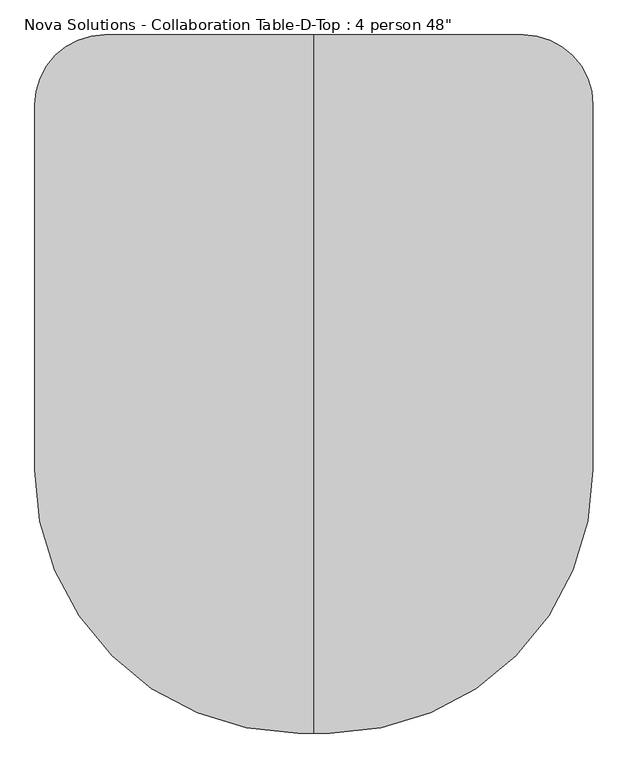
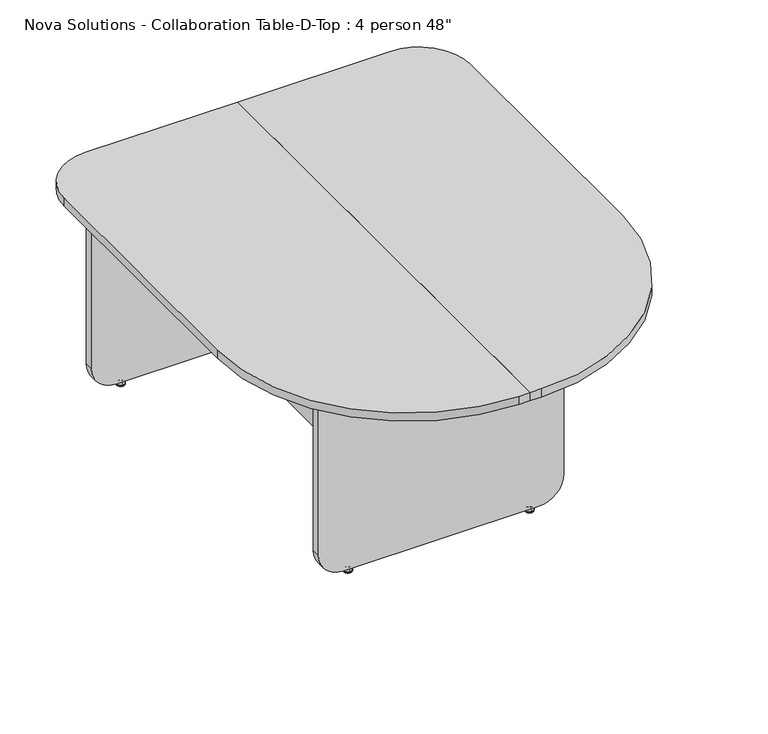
"""IFC4 building model written with IfcOpenShell, lengths in millimetres: furniture geometry."""

from ifc_helpers import new_model, si_unit, point, frame, frame_2d, origin, place, context, project, spatial, polyline, circle_curve, ellipse_curve, trimmed, segment, composite_curve, outline, extrude, source, transform, mapped, element, save
from ifc_brep_helpers import plane_surface, cylinder_surface, revolved_surface, advanced_brep


def furniture_1c62df15(model_context):
    return source(origin(), model_context, "Body", "SolidModel", [
        extrude(outline(polyline([(-136.57, 733.4), (-136.57, -271.3), (-152.77, -271.3), (-152.77, 733.4), (-136.57, 733.4)])), frame((0.0, 0.0, 181.85), z_axis=(0.0, 0.0, 1.0), x_axis=(1.0, 0.0, 0.0)), (0.0, 0.0, 1.0), 553.0),
        extrude(outline(polyline([(136.57, 733.4), (152.77, 733.4), (152.77, -271.3), (136.57, -271.3), (136.57, 733.4)])), frame((0.0, 0.0, 181.85), z_axis=(0.0, 0.0, 1.0), x_axis=(1.0, 0.0, 0.0)), (0.0, 0.0, 1.0), 553.0),
        advanced_brep(
        [(361.0578125, 752.9276506, 11.1125), (361.0578125, 739.5723494, 11.1125), (361.0578125, 746.25, 11.1125), (361.0578125, 752.9276506, 9.525), (361.0578125, 739.5723494, 9.525), (361.0578125, 758.1355135, 4.7748687), (361.0578125, 734.3644865, 4.7748687), (361.0578125, 758.9966506, 3.989419), (361.0578125, 733.5033494, 3.989419), (361.0578125, 758.9966506, 3.175), (361.0578125, 733.5033494, 3.175), (361.0578125, 758.1459119, 0.0), (361.0578125, 734.3540881, 0.0), (361.0578125, 746.25, 0.0)],
        [
            (0, 1, circle_curve(frame((361.0578125, 746.25, 11.1125), z_axis=(0.0, 0.0, 1.0), x_axis=(0.0, -1.0, 0.0)), 6.6776506)),
            (1, 2),
            (2, 0),
            (1, 0, circle_curve(frame((361.0578125, 746.25, 11.1125), z_axis=(0.0, 0.0, 1.0), x_axis=(0.0, -1.0, 0.0)), 6.6776506)),
            (3, 4, circle_curve(frame((361.0578125, 746.25, 9.525), z_axis=(0.0, 0.0, 1.0), x_axis=(0.0, -1.0, 0.0)), 6.6776506)),
            (4, 1),
            (0, 3),
            (4, 3, circle_curve(frame((361.0578125, 746.25, 9.525), z_axis=(0.0, 0.0, 1.0), x_axis=(0.0, -1.0, 0.0)), 6.6776506)),
            (5, 6, circle_curve(frame((361.0578125, 746.25, 4.7748687), z_axis=(0.0, 0.0, 1.0), x_axis=(0.0, -1.0, 0.0)), 11.8855135)),
            (6, 4, circle_curve(frame((361.0578125, 733.3179373, 11.1521822), z_axis=(1.0, 0.0, 0.0), x_axis=(0.0, 1.0, 0.0)), 6.462615)),
            (3, 5, circle_curve(frame((361.0578125, 759.1820627, 11.1521822), z_axis=(1.0, 0.0, 0.0), x_axis=(0.0, -1.0, 0.0)), 6.462615)),
            (6, 5, circle_curve(frame((361.0578125, 746.25, 4.7748687), z_axis=(0.0, 0.0, 1.0), x_axis=(0.0, -1.0, 0.0)), 11.8855135)),
            (7, 8, circle_curve(frame((361.0578125, 746.25, 3.989419), z_axis=(0.0, 0.0, 1.0), x_axis=(0.0, -1.0, 0.0)), 12.7466506)),
            (8, 6, circle_curve(frame((361.0578125, 734.5375368, 3.7203591), z_axis=(-1.0, 0.0, 0.0), x_axis=(0.0, 1.0, 0.0)), 1.0686145)),
            (5, 7, circle_curve(frame((361.0578125, 757.9624632, 3.7203591), z_axis=(-1.0, 0.0, 0.0), x_axis=(0.0, -1.0, 0.0)), 1.0686145)),
            (8, 7, circle_curve(frame((361.0578125, 746.25, 3.989419), z_axis=(0.0, 0.0, 1.0), x_axis=(0.0, -1.0, 0.0)), 12.7466506)),
            (9, 10, circle_curve(frame((361.0578125, 746.25, 3.175), z_axis=(0.0, 0.0, 1.0), x_axis=(0.0, -1.0, 0.0)), 12.7466506)),
            (10, 8),
            (7, 9),
            (10, 9, circle_curve(frame((361.0578125, 746.25, 3.175), z_axis=(0.0, 0.0, 1.0), x_axis=(0.0, -1.0, 0.0)), 12.7466506)),
            (11, 12, circle_curve(frame((361.0578125, 746.25, 0.0), z_axis=(0.0, 0.0, 1.0), x_axis=(0.0, -1.0, 0.0)), 11.8959119)),
            (12, 10),
            (9, 11),
            (12, 11, circle_curve(frame((361.0578125, 746.25, 0.0), z_axis=(0.0, 0.0, 1.0), x_axis=(0.0, -1.0, 0.0)), 11.8959119)),
            (13, 12),
            (11, 13),
        ],
        [
            plane_surface(frame((361.0578125, 746.25, 11.1125), z_axis=(0.0, 0.0, 1.0), x_axis=(0.0, -1.0, 0.0))),
            cylinder_surface(frame((361.0578125, 746.25, 43.2095994), z_axis=(0.0, 0.0, -1.0), x_axis=(0.0, -1.0, 0.0)), 6.6776506),
            revolved_surface(trimmed(ellipse_curve(frame((361.0578125, 733.3179373, 11.1521822), z_axis=(-1.0, 0.0, 0.0), x_axis=(0.0, 1.0, 0.0)), 6.462615, 6.462615), [point((361.0578125, 739.5723494, 9.525))], [point((361.0578125, 734.3644865, 4.7748687))], True, "CARTESIAN"), (361.0578125, 746.25, 43.2095994), (0.0, 0.0, -1.0)),
            revolved_surface(trimmed(ellipse_curve(frame((361.0578125, 734.5375368, 3.7203591), z_axis=(1.0, 0.0, 0.0), x_axis=(0.0, 1.0, 0.0)), 1.0686145, 1.0686145), [point((361.0578125, 734.3644865, 4.7748687))], [point((361.0578125, 733.5033494, 3.989419))], True, "CARTESIAN"), (361.0578125, 746.25, 43.2095994), (0.0, 0.0, -1.0)),
            cylinder_surface(frame((361.0578125, 746.25, 43.2095994), z_axis=(0.0, 0.0, -1.0), x_axis=(0.0, -1.0, 0.0)), 12.7466506),
            revolved_surface(polyline([(361.0578125, 733.5033494, 3.175), (361.0578125, 734.3540881, 0.0)]), (361.0578125, 746.25, 43.2095994), (0.0, 0.0, -1.0)),
            plane_surface(frame((361.0578125, 746.25, 0.0), z_axis=(0.0, 0.0, -1.0), x_axis=(0.0, -1.0, 0.0))),
        ],
        [
            (0, [[1, 2, 3]]),
            (0, [[4, -3, -2]]),
            (1, [[5, 6, -1, 7]]),
            (1, [[8, -7, -4, -6]]),
            (2, [[9, 10, -5, 11]]),
            (2, [[12, -11, -8, -10]]),
            (3, [[13, 14, -9, 15]]),
            (3, [[16, -15, -12, -14]]),
            (4, [[17, 18, -13, 19]]),
            (4, [[20, -19, -16, -18]]),
            (5, [[21, 22, -17, 23]]),
            (5, [[24, -23, -20, -22]]),
            (6, [[25, -21, 26]]),
            (6, [[-26, -24, -25]]),
        ],
    ),
        advanced_brep(
        [(-361.0578125, 752.9276506, 11.1125), (-361.0578125, 739.5723494, 11.1125), (-361.0578125, 746.25, 11.1125), (-361.0578125, 752.9276506, 9.525), (-361.0578125, 739.5723494, 9.525), (-361.0578125, 758.1355135, 4.7748687), (-361.0578125, 734.3644865, 4.7748687), (-361.0578125, 758.9966506, 3.989419), (-361.0578125, 733.5033494, 3.989419), (-361.0578125, 758.9966506, 3.175), (-361.0578125, 733.5033494, 3.175), (-361.0578125, 758.1459119, 0.0), (-361.0578125, 734.3540881, 0.0), (-361.0578125, 746.25, 0.0)],
        [
            (0, 1, circle_curve(frame((-361.0578125, 746.25, 11.1125), z_axis=(0.0, 0.0, 1.0), x_axis=(0.0, -1.0, 0.0)), 6.6776506)),
            (1, 2),
            (2, 0),
            (1, 0, circle_curve(frame((-361.0578125, 746.25, 11.1125), z_axis=(0.0, 0.0, 1.0), x_axis=(0.0, -1.0, 0.0)), 6.6776506)),
            (3, 4, circle_curve(frame((-361.0578125, 746.25, 9.525), z_axis=(0.0, 0.0, 1.0), x_axis=(0.0, -1.0, 0.0)), 6.6776506)),
            (4, 1),
            (0, 3),
            (4, 3, circle_curve(frame((-361.0578125, 746.25, 9.525), z_axis=(0.0, 0.0, 1.0), x_axis=(0.0, -1.0, 0.0)), 6.6776506)),
            (5, 6, circle_curve(frame((-361.0578125, 746.25, 4.7748687), z_axis=(0.0, 0.0, 1.0), x_axis=(0.0, -1.0, 0.0)), 11.8855135)),
            (6, 4, circle_curve(frame((-361.0578125, 733.3179373, 11.1521822), z_axis=(1.0, 0.0, 0.0), x_axis=(0.0, 1.0, 0.0)), 6.462615)),
            (3, 5, circle_curve(frame((-361.0578125, 759.1820627, 11.1521822), z_axis=(1.0, 0.0, 0.0), x_axis=(0.0, -1.0, 0.0)), 6.462615)),
            (6, 5, circle_curve(frame((-361.0578125, 746.25, 4.7748687), z_axis=(0.0, 0.0, 1.0), x_axis=(0.0, -1.0, 0.0)), 11.8855135)),
            (7, 8, circle_curve(frame((-361.0578125, 746.25, 3.989419), z_axis=(0.0, 0.0, 1.0), x_axis=(0.0, -1.0, 0.0)), 12.7466506)),
            (8, 6, circle_curve(frame((-361.0578125, 734.5375368, 3.7203591), z_axis=(-1.0, 0.0, 0.0), x_axis=(0.0, 1.0, 0.0)), 1.0686145)),
            (5, 7, circle_curve(frame((-361.0578125, 757.9624632, 3.7203591), z_axis=(-1.0, 0.0, 0.0), x_axis=(0.0, -1.0, 0.0)), 1.0686145)),
            (8, 7, circle_curve(frame((-361.0578125, 746.25, 3.989419), z_axis=(0.0, 0.0, 1.0), x_axis=(0.0, -1.0, 0.0)), 12.7466506)),
            (9, 10, circle_curve(frame((-361.0578125, 746.25, 3.175), z_axis=(0.0, 0.0, 1.0), x_axis=(0.0, -1.0, 0.0)), 12.7466506)),
            (10, 8),
            (7, 9),
            (10, 9, circle_curve(frame((-361.0578125, 746.25, 3.175), z_axis=(0.0, 0.0, 1.0), x_axis=(0.0, -1.0, 0.0)), 12.7466506)),
            (11, 12, circle_curve(frame((-361.0578125, 746.25, 0.0), z_axis=(0.0, 0.0, 1.0), x_axis=(0.0, -1.0, 0.0)), 11.8959119)),
            (12, 10),
            (9, 11),
            (12, 11, circle_curve(frame((-361.0578125, 746.25, 0.0), z_axis=(0.0, 0.0, 1.0), x_axis=(0.0, -1.0, 0.0)), 11.8959119)),
            (13, 12),
            (11, 13),
        ],
        [
            plane_surface(frame((-361.0578125, 746.25, 11.1125), z_axis=(0.0, 0.0, 1.0), x_axis=(0.0, -1.0, 0.0))),
            cylinder_surface(frame((-361.0578125, 746.25, 43.2095994), z_axis=(0.0, 0.0, -1.0), x_axis=(0.0, -1.0, 0.0)), 6.6776506),
            revolved_surface(trimmed(ellipse_curve(frame((-361.0578125, 733.3179373, 11.1521822), z_axis=(-1.0, 0.0, 0.0), x_axis=(0.0, 1.0, 0.0)), 6.462615, 6.462615), [point((-361.0578125, 739.5723494, 9.525))], [point((-361.0578125, 734.3644865, 4.7748687))], True, "CARTESIAN"), (-361.0578125, 746.25, 43.2095994), (0.0, 0.0, -1.0)),
            revolved_surface(trimmed(ellipse_curve(frame((-361.0578125, 734.5375368, 3.7203591), z_axis=(1.0, 0.0, 0.0), x_axis=(0.0, 1.0, 0.0)), 1.0686145, 1.0686145), [point((-361.0578125, 734.3644865, 4.7748687))], [point((-361.0578125, 733.5033494, 3.989419))], True, "CARTESIAN"), (-361.0578125, 746.25, 43.2095994), (0.0, 0.0, -1.0)),
            cylinder_surface(frame((-361.0578125, 746.25, 43.2095994), z_axis=(0.0, 0.0, -1.0), x_axis=(0.0, -1.0, 0.0)), 12.7466506),
            revolved_surface(polyline([(-361.0578125, 733.5033494, 3.175), (-361.0578125, 734.3540881, 0.0)]), (-361.0578125, 746.25, 43.2095994), (0.0, 0.0, -1.0)),
            plane_surface(frame((-361.0578125, 746.25, 0.0), z_axis=(0.0, 0.0, -1.0), x_axis=(0.0, -1.0, 0.0))),
        ],
        [
            (0, [[1, 2, 3]]),
            (0, [[4, -3, -2]]),
            (1, [[5, 6, -1, 7]]),
            (1, [[8, -7, -4, -6]]),
            (2, [[9, 10, -5, 11]]),
            (2, [[12, -11, -8, -10]]),
            (3, [[13, 14, -9, 15]]),
            (3, [[16, -15, -12, -14]]),
            (4, [[17, 18, -13, 19]]),
            (4, [[20, -19, -16, -18]]),
            (5, [[21, 22, -17, 23]]),
            (5, [[24, -23, -20, -22]]),
            (6, [[25, -21, 26]]),
            (6, [[-26, -24, -25]]),
        ],
    ),
        extrude(outline(composite_curve([segment(polyline([(734.85, 457.1), (734.85, -457.1), (90.15, -457.1)]), True, "CONTINUOUS"), segment(trimmed(circle_curve(frame_2d((90.15, -381.1)), 76.0), [point((90.15, -457.1))], [point((14.15, -381.1))], False, "CARTESIAN"), True, "CONTINUOUS"), segment(polyline([(14.15, -381.1), (14.15, 381.1)]), True, "CONTINUOUS"), segment(trimmed(circle_curve(frame_2d((90.15, 381.1)), 76.0), [point((14.15, 381.1))], [point((90.15, 457.1))], False, "CARTESIAN"), True, "CONTINUOUS"), segment(polyline([(90.15, 457.1), (734.85, 457.1)]), True, "CONTINUOUS")], self_intersect=False)), frame((0.0, 733.4, 0.0), z_axis=(0.0, 1.0, 0.0), x_axis=(0.0, 0.0, 1.0)), (0.0, 0.0, 1.0), 25.7),
        advanced_brep(
        [(272.9578125, -277.4723494, 11.1125), (272.9578125, -290.8276506, 11.1125), (272.9578125, -284.15, 11.1125), (272.9578125, -277.4723494, 9.525), (272.9578125, -290.8276506, 9.525), (272.9578125, -272.2644865, 4.7748687), (272.9578125, -296.0355135, 4.7748687), (272.9578125, -271.4033494, 3.989419), (272.9578125, -296.8966506, 3.989419), (272.9578125, -271.4033494, 3.175), (272.9578125, -296.8966506, 3.175), (272.9578125, -272.2540881, 0.0), (272.9578125, -296.0459119, 0.0), (272.9578125, -284.15, 0.0)],
        [
            (0, 1, circle_curve(frame((272.9578125, -284.15, 11.1125), z_axis=(0.0, 0.0, 1.0), x_axis=(0.0, -1.0, 0.0)), 6.6776506)),
            (1, 2),
            (2, 0),
            (1, 0, circle_curve(frame((272.9578125, -284.15, 11.1125), z_axis=(0.0, 0.0, 1.0), x_axis=(0.0, -1.0, 0.0)), 6.6776506)),
            (3, 4, circle_curve(frame((272.9578125, -284.15, 9.525), z_axis=(0.0, 0.0, 1.0), x_axis=(0.0, -1.0, 0.0)), 6.6776506)),
            (4, 1),
            (0, 3),
            (4, 3, circle_curve(frame((272.9578125, -284.15, 9.525), z_axis=(0.0, 0.0, 1.0), x_axis=(0.0, -1.0, 0.0)), 6.6776506)),
            (5, 6, circle_curve(frame((272.9578125, -284.15, 4.7748687), z_axis=(0.0, 0.0, 1.0), x_axis=(0.0, -1.0, 0.0)), 11.8855135)),
            (6, 4, circle_curve(frame((272.9578125, -297.0820627, 11.1521822), z_axis=(1.0, 0.0, 0.0), x_axis=(0.0, 1.0, 0.0)), 6.462615)),
            (3, 5, circle_curve(frame((272.9578125, -271.2179373, 11.1521822), z_axis=(1.0, 0.0, 0.0), x_axis=(0.0, -1.0, 0.0)), 6.462615)),
            (6, 5, circle_curve(frame((272.9578125, -284.15, 4.7748687), z_axis=(0.0, 0.0, 1.0), x_axis=(0.0, -1.0, 0.0)), 11.8855135)),
            (7, 8, circle_curve(frame((272.9578125, -284.15, 3.989419), z_axis=(0.0, 0.0, 1.0), x_axis=(0.0, -1.0, 0.0)), 12.7466506)),
            (8, 6, circle_curve(frame((272.9578125, -295.8624632, 3.7203591), z_axis=(-1.0, 0.0, 0.0), x_axis=(0.0, 1.0, 0.0)), 1.0686145)),
            (5, 7, circle_curve(frame((272.9578125, -272.4375368, 3.7203591), z_axis=(-1.0, 0.0, 0.0), x_axis=(0.0, -1.0, 0.0)), 1.0686145)),
            (8, 7, circle_curve(frame((272.9578125, -284.15, 3.989419), z_axis=(0.0, 0.0, 1.0), x_axis=(0.0, -1.0, 0.0)), 12.7466506)),
            (9, 10, circle_curve(frame((272.9578125, -284.15, 3.175), z_axis=(0.0, 0.0, 1.0), x_axis=(0.0, -1.0, 0.0)), 12.7466506)),
            (10, 8),
            (7, 9),
            (10, 9, circle_curve(frame((272.9578125, -284.15, 3.175), z_axis=(0.0, 0.0, 1.0), x_axis=(0.0, -1.0, 0.0)), 12.7466506)),
            (11, 12, circle_curve(frame((272.9578125, -284.15, 0.0), z_axis=(0.0, 0.0, 1.0), x_axis=(0.0, -1.0, 0.0)), 11.8959119)),
            (12, 10),
            (9, 11),
            (12, 11, circle_curve(frame((272.9578125, -284.15, 0.0), z_axis=(0.0, 0.0, 1.0), x_axis=(0.0, -1.0, 0.0)), 11.8959119)),
            (13, 12),
            (11, 13),
        ],
        [
            plane_surface(frame((272.9578125, -284.15, 11.1125), z_axis=(0.0, 0.0, 1.0), x_axis=(0.0, -1.0, 0.0))),
            cylinder_surface(frame((272.9578125, -284.15, 43.2095994), z_axis=(0.0, 0.0, -1.0), x_axis=(0.0, -1.0, 0.0)), 6.6776506),
            revolved_surface(trimmed(ellipse_curve(frame((272.9578125, -297.0820627, 11.1521822), z_axis=(-1.0, 0.0, 0.0), x_axis=(0.0, 1.0, 0.0)), 6.462615, 6.462615), [point((272.9578125, -290.8276506, 9.525))], [point((272.9578125, -296.0355135, 4.7748687))], True, "CARTESIAN"), (272.9578125, -284.15, 43.2095994), (0.0, 0.0, -1.0)),
            revolved_surface(trimmed(ellipse_curve(frame((272.9578125, -295.8624632, 3.7203591), z_axis=(1.0, 0.0, 0.0), x_axis=(0.0, 1.0, 0.0)), 1.0686145, 1.0686145), [point((272.9578125, -296.0355135, 4.7748687))], [point((272.9578125, -296.8966506, 3.989419))], True, "CARTESIAN"), (272.9578125, -284.15, 43.2095994), (0.0, 0.0, -1.0)),
            cylinder_surface(frame((272.9578125, -284.15, 43.2095994), z_axis=(0.0, 0.0, -1.0), x_axis=(0.0, -1.0, 0.0)), 12.7466506),
            revolved_surface(polyline([(272.9578125, -296.8966506, 3.175), (272.9578125, -296.0459119, 0.0)]), (272.9578125, -284.15, 43.2095994), (0.0, 0.0, -1.0)),
            plane_surface(frame((272.9578125, -284.15, 0.0), z_axis=(0.0, 0.0, -1.0), x_axis=(0.0, -1.0, 0.0))),
        ],
        [
            (0, [[1, 2, 3]]),
            (0, [[4, -3, -2]]),
            (1, [[5, 6, -1, 7]]),
            (1, [[8, -7, -4, -6]]),
            (2, [[9, 10, -5, 11]]),
            (2, [[12, -11, -8, -10]]),
            (3, [[13, 14, -9, 15]]),
            (3, [[16, -15, -12, -14]]),
            (4, [[17, 18, -13, 19]]),
            (4, [[20, -19, -16, -18]]),
            (5, [[21, 22, -17, 23]]),
            (5, [[24, -23, -20, -22]]),
            (6, [[25, -21, 26]]),
            (6, [[-26, -24, -25]]),
        ],
    ),
        advanced_brep(
        [(-272.9578125, -277.4723494, 11.1125), (-272.9578125, -290.8276506, 11.1125), (-272.9578125, -284.15, 11.1125), (-272.9578125, -277.4723494, 9.525), (-272.9578125, -290.8276506, 9.525), (-272.9578125, -272.2644865, 4.7748687), (-272.9578125, -296.0355135, 4.7748687), (-272.9578125, -271.4033494, 3.989419), (-272.9578125, -296.8966506, 3.989419), (-272.9578125, -271.4033494, 3.175), (-272.9578125, -296.8966506, 3.175), (-272.9578125, -272.2540881, 0.0), (-272.9578125, -296.0459119, 0.0), (-272.9578125, -284.15, 0.0)],
        [
            (0, 1, circle_curve(frame((-272.9578125, -284.15, 11.1125), z_axis=(0.0, 0.0, 1.0), x_axis=(0.0, -1.0, 0.0)), 6.6776506)),
            (1, 2),
            (2, 0),
            (1, 0, circle_curve(frame((-272.9578125, -284.15, 11.1125), z_axis=(0.0, 0.0, 1.0), x_axis=(0.0, -1.0, 0.0)), 6.6776506)),
            (3, 4, circle_curve(frame((-272.9578125, -284.15, 9.525), z_axis=(0.0, 0.0, 1.0), x_axis=(0.0, -1.0, 0.0)), 6.6776506)),
            (4, 1),
            (0, 3),
            (4, 3, circle_curve(frame((-272.9578125, -284.15, 9.525), z_axis=(0.0, 0.0, 1.0), x_axis=(0.0, -1.0, 0.0)), 6.6776506)),
            (5, 6, circle_curve(frame((-272.9578125, -284.15, 4.7748687), z_axis=(0.0, 0.0, 1.0), x_axis=(0.0, -1.0, 0.0)), 11.8855135)),
            (6, 4, circle_curve(frame((-272.9578125, -297.0820627, 11.1521822), z_axis=(1.0, 0.0, 0.0), x_axis=(0.0, 1.0, 0.0)), 6.462615)),
            (3, 5, circle_curve(frame((-272.9578125, -271.2179373, 11.1521822), z_axis=(1.0, 0.0, 0.0), x_axis=(0.0, -1.0, 0.0)), 6.462615)),
            (6, 5, circle_curve(frame((-272.9578125, -284.15, 4.7748687), z_axis=(0.0, 0.0, 1.0), x_axis=(0.0, -1.0, 0.0)), 11.8855135)),
            (7, 8, circle_curve(frame((-272.9578125, -284.15, 3.989419), z_axis=(0.0, 0.0, 1.0), x_axis=(0.0, -1.0, 0.0)), 12.7466506)),
            (8, 6, circle_curve(frame((-272.9578125, -295.8624632, 3.7203591), z_axis=(-1.0, 0.0, 0.0), x_axis=(0.0, 1.0, 0.0)), 1.0686145)),
            (5, 7, circle_curve(frame((-272.9578125, -272.4375368, 3.7203591), z_axis=(-1.0, 0.0, 0.0), x_axis=(0.0, -1.0, 0.0)), 1.0686145)),
            (8, 7, circle_curve(frame((-272.9578125, -284.15, 3.989419), z_axis=(0.0, 0.0, 1.0), x_axis=(0.0, -1.0, 0.0)), 12.7466506)),
            (9, 10, circle_curve(frame((-272.9578125, -284.15, 3.175), z_axis=(0.0, 0.0, 1.0), x_axis=(0.0, -1.0, 0.0)), 12.7466506)),
            (10, 8),
            (7, 9),
            (10, 9, circle_curve(frame((-272.9578125, -284.15, 3.175), z_axis=(0.0, 0.0, 1.0), x_axis=(0.0, -1.0, 0.0)), 12.7466506)),
            (11, 12, circle_curve(frame((-272.9578125, -284.15, 0.0), z_axis=(0.0, 0.0, 1.0), x_axis=(0.0, -1.0, 0.0)), 11.8959119)),
            (12, 10),
            (9, 11),
            (12, 11, circle_curve(frame((-272.9578125, -284.15, 0.0), z_axis=(0.0, 0.0, 1.0), x_axis=(0.0, -1.0, 0.0)), 11.8959119)),
            (13, 12),
            (11, 13),
        ],
        [
            plane_surface(frame((-272.9578125, -284.15, 11.1125), z_axis=(0.0, 0.0, 1.0), x_axis=(0.0, -1.0, 0.0))),
            cylinder_surface(frame((-272.9578125, -284.15, 43.2095994), z_axis=(0.0, 0.0, -1.0), x_axis=(0.0, -1.0, 0.0)), 6.6776506),
            revolved_surface(trimmed(ellipse_curve(frame((-272.9578125, -297.0820627, 11.1521822), z_axis=(-1.0, 0.0, 0.0), x_axis=(0.0, 1.0, 0.0)), 6.462615, 6.462615), [point((-272.9578125, -290.8276506, 9.525))], [point((-272.9578125, -296.0355135, 4.7748687))], True, "CARTESIAN"), (-272.9578125, -284.15, 43.2095994), (0.0, 0.0, -1.0)),
            revolved_surface(trimmed(ellipse_curve(frame((-272.9578125, -295.8624632, 3.7203591), z_axis=(1.0, 0.0, 0.0), x_axis=(0.0, 1.0, 0.0)), 1.0686145, 1.0686145), [point((-272.9578125, -296.0355135, 4.7748687))], [point((-272.9578125, -296.8966506, 3.989419))], True, "CARTESIAN"), (-272.9578125, -284.15, 43.2095994), (0.0, 0.0, -1.0)),
            cylinder_surface(frame((-272.9578125, -284.15, 43.2095994), z_axis=(0.0, 0.0, -1.0), x_axis=(0.0, -1.0, 0.0)), 12.7466506),
            revolved_surface(polyline([(-272.9578125, -296.8966506, 3.175), (-272.9578125, -296.0459119, 0.0)]), (-272.9578125, -284.15, 43.2095994), (0.0, 0.0, -1.0)),
            plane_surface(frame((-272.9578125, -284.15, 0.0), z_axis=(0.0, 0.0, -1.0), x_axis=(0.0, -1.0, 0.0))),
        ],
        [
            (0, [[1, 2, 3]]),
            (0, [[4, -3, -2]]),
            (1, [[5, 6, -1, 7]]),
            (1, [[8, -7, -4, -6]]),
            (2, [[9, 10, -5, 11]]),
            (2, [[12, -11, -8, -10]]),
            (3, [[13, 14, -9, 15]]),
            (3, [[16, -15, -12, -14]]),
            (4, [[17, 18, -13, 19]]),
            (4, [[20, -19, -16, -18]]),
            (5, [[21, 22, -17, 23]]),
            (5, [[24, -23, -20, -22]]),
            (6, [[25, -21, 26]]),
            (6, [[-26, -24, -25]]),
        ],
    ),
        extrude(outline(composite_curve([segment(polyline([(734.85, 369.0), (734.85, -369.0), (90.15, -369.0)]), True, "CONTINUOUS"), segment(trimmed(circle_curve(frame_2d((90.15, -293.0)), 76.0), [point((90.15, -369.0))], [point((14.15, -293.0))], False, "CARTESIAN"), True, "CONTINUOUS"), segment(polyline([(14.15, -293.0), (14.15, 293.0)]), True, "CONTINUOUS"), segment(trimmed(circle_curve(frame_2d((90.15, 293.0)), 76.0), [point((14.15, 293.0))], [point((90.15, 369.0))], False, "CARTESIAN"), True, "CONTINUOUS"), segment(polyline([(90.15, 369.0), (734.85, 369.0)]), True, "CONTINUOUS")], self_intersect=False)), frame((0.0, -297.0, 0.0), z_axis=(0.0, 1.0, 0.0), x_axis=(0.0, 0.0, 1.0)), (0.0, 0.0, 1.0), 25.7),
        extrude(outline(composite_curve([segment(trimmed(circle_curve(frame_2d((34.6, -187.0)), 575.0), [point((609.6, -187.0))], [point((34.6, -762.0))], False, "CARTESIAN"), True, "CONTINUOUS"), segment(polyline([(34.6, -762.0), (0.0, -762.0), (0.0, 762.0), (457.2, 762.0)]), True, "CONTINUOUS"), segment(trimmed(circle_curve(frame_2d((457.2, 609.6)), 152.4), [point((457.2, 762.0))], [point((609.6, 609.6))], False, "CARTESIAN"), True, "CONTINUOUS"), segment(polyline([(609.6, 609.6), (609.6, -187.0)]), True, "CONTINUOUS")], self_intersect=False)), frame((0.0, 0.0, 734.85), z_axis=(0.0, 0.0, 1.0), x_axis=(1.0, 0.0, 0.0)), (0.0, 0.0, 1.0), 25.7),
        extrude(outline(composite_curve([segment(polyline([(0.0, 762.0), (0.0, -762.0), (-34.6, -762.0)]), True, "CONTINUOUS"), segment(trimmed(circle_curve(frame_2d((-34.6, -187.0)), 575.0), [point((-34.6, -762.0))], [point((-609.6, -187.0))], False, "CARTESIAN"), True, "CONTINUOUS"), segment(polyline([(-609.6, -187.0), (-609.6, 609.6)]), True, "CONTINUOUS"), segment(trimmed(circle_curve(frame_2d((-457.2, 609.6)), 152.4), [point((-609.6, 609.6))], [point((-457.2, 762.0))], False, "CARTESIAN"), True, "CONTINUOUS"), segment(polyline([(-457.2, 762.0), (0.0, 762.0)]), True, "CONTINUOUS")], self_intersect=False)), frame((0.0, 0.0, 734.85), z_axis=(0.0, 0.0, 1.0), x_axis=(1.0, 0.0, 0.0)), (0.0, 0.0, 1.0), 25.7),
    ])


if __name__ == "__main__":
    model = new_model("IFC4")
    model_context = context("Model", 3, world=origin())
    ifc_project = project(units=[si_unit("LENGTHUNIT", "METRE", prefix="MILLI")], contexts=[model_context])
    site = spatial("IfcSite", under=ifc_project)
    building = spatial("IfcBuilding", under=site)
    placement = place(None, origin())
    furniture_shape = furniture_1c62df15(model_context)
    element("IfcFurniture", 1, ObjectType="Nova Solutions - Collaboration Table-D-Top : 4 person 48\"", at=placement, inside=building, context=model_context, shape_type="MappedRepresentation", body=[
        mapped(furniture_shape, transform((0.0, 0.0, 0.0), x_axis=(1.0, 0.0, 0.0), y_axis=(0.0, 1.0, 0.0), z_axis=(0.0, 0.0, 1.0))),
    ])
    save(model, "model.ifc")
